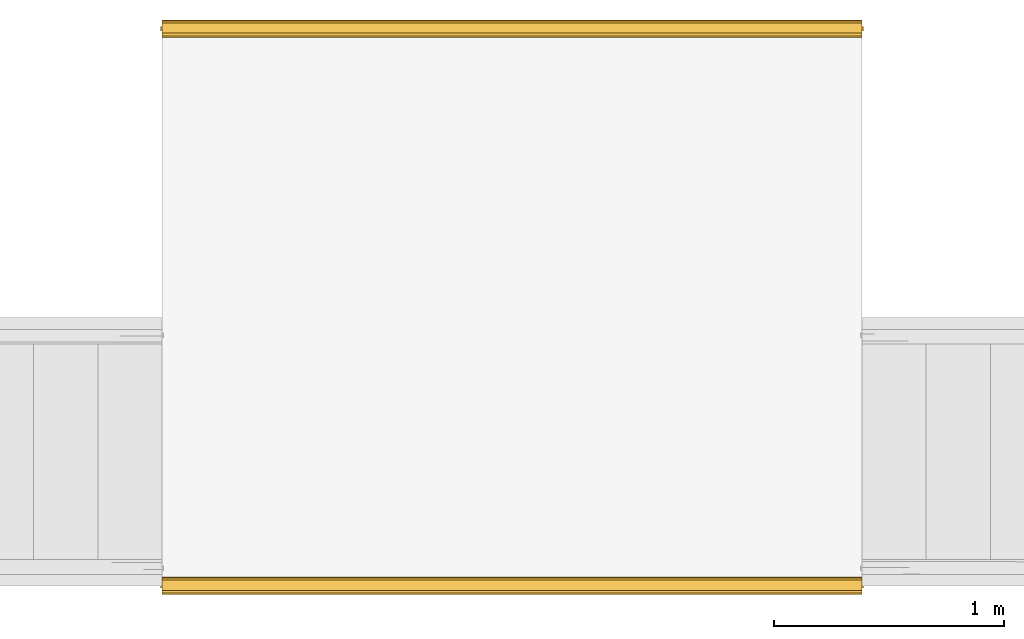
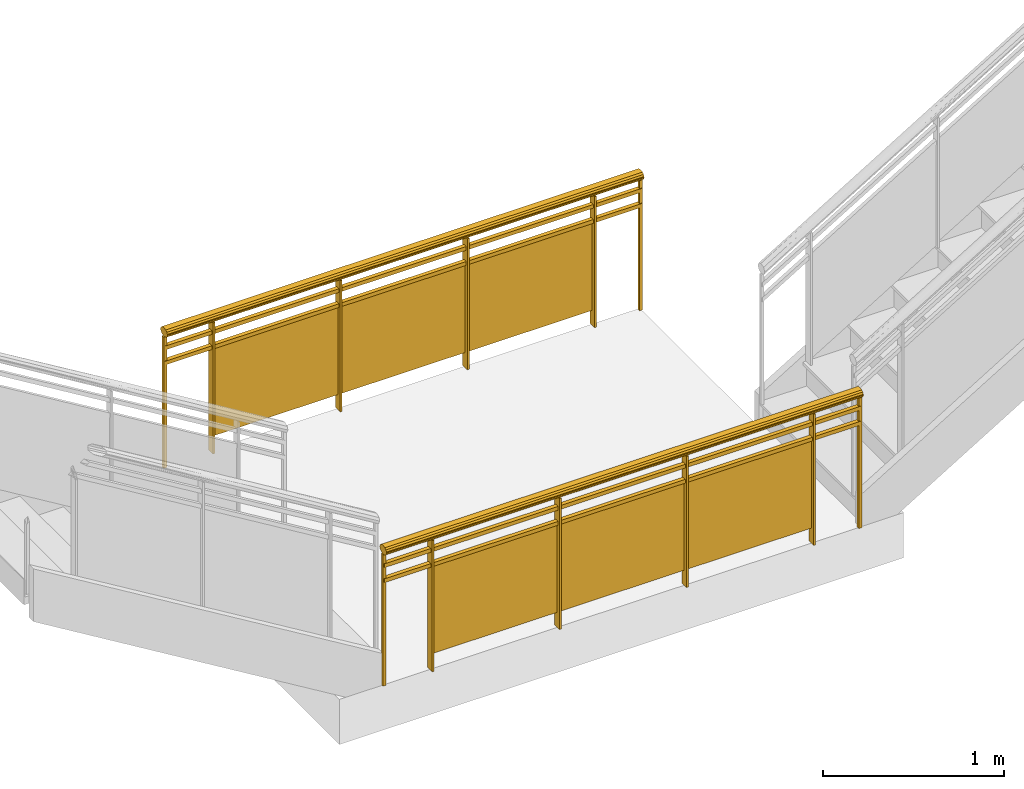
# One storey, part 2 of 4: 2 railings.
"""IFC2X3 building model written with IfcOpenShell, lengths in feet."""

from ifc_helpers import new_model, entity, si_unit, converted_unit, derived_unit, direction, frame, frame_2d, origin, origin_2d_with_axis, place, context, subcontext, project, spatial, polyline, rectangle, outline, extrude, material, material_list, element, save


model = new_model("IFC2X3")

# Units and contexts
model_context = context("Model", 3, precision=0.0001, world=origin(), true_north=direction((6.12303176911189e-17, 1.0)))
body_context = subcontext(model_context, "Body", "Model", "MODEL_VIEW")
ifc_project = project(units=[converted_unit("LENGTHUNIT", "FOOT", entity("IfcRatioMeasure", 0.3048), si_unit("LENGTHUNIT", "METRE"), dimensions=[1, 0, 0, 0, 0, 0, 0]), converted_unit("AREAUNIT", "SQUARE FOOT", entity("IfcRatioMeasure", 0.09290304), si_unit("AREAUNIT", "SQUARE_METRE"), dimensions=[2, 0, 0, 0, 0, 0, 0]), converted_unit("VOLUMEUNIT", "CUBIC FOOT", entity("IfcRatioMeasure", 0.028316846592), si_unit("VOLUMEUNIT", "CUBIC_METRE"), dimensions=[3, 0, 0, 0, 0, 0, 0]), converted_unit("PLANEANGLEUNIT", "DEGREE", entity("IfcRatioMeasure", 0.0174532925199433), si_unit("PLANEANGLEUNIT", "RADIAN"), dimensions=[0, 0, 0, 0, 0, 0, 0]), si_unit("MASSUNIT", "GRAM", prefix="KILO"), derived_unit("MASSDENSITYUNIT", [(si_unit("MASSUNIT", "GRAM", prefix="KILO"), 1), (si_unit("LENGTHUNIT", "METRE"), -3)]), si_unit("TIMEUNIT", "SECOND"), si_unit("FREQUENCYUNIT", "HERTZ"), si_unit("THERMODYNAMICTEMPERATUREUNIT", "DEGREE_CELSIUS"), derived_unit("THERMALTRANSMITTANCEUNIT", [(si_unit("MASSUNIT", "GRAM", prefix="KILO"), 1), (si_unit("THERMODYNAMICTEMPERATUREUNIT", "KELVIN"), -1), (si_unit("TIMEUNIT", "SECOND"), -3)]), derived_unit("VOLUMETRICFLOWRATEUNIT", [(si_unit("LENGTHUNIT", "METRE"), 3), (si_unit("TIMEUNIT", "SECOND"), -1)]), si_unit("ELECTRICCURRENTUNIT", "AMPERE"), si_unit("ELECTRICVOLTAGEUNIT", "VOLT"), si_unit("POWERUNIT", "WATT"), si_unit("FORCEUNIT", "NEWTON"), si_unit("ILLUMINANCEUNIT", "LUX"), si_unit("LUMINOUSFLUXUNIT", "LUMEN"), si_unit("LUMINOUSINTENSITYUNIT", "CANDELA"), derived_unit("USERDEFINED", [(si_unit("MASSUNIT", "GRAM", prefix="KILO"), -1), (si_unit("LENGTHUNIT", "METRE"), -2), (si_unit("TIMEUNIT", "SECOND"), 3), (si_unit("LUMINOUSFLUXUNIT", "LUMEN"), 1)]), derived_unit("LINEARVELOCITYUNIT", [(si_unit("LENGTHUNIT", "METRE"), 1), (si_unit("TIMEUNIT", "SECOND"), -1)]), si_unit("PRESSUREUNIT", "PASCAL"), derived_unit("USERDEFINED", [(si_unit("LENGTHUNIT", "METRE"), -2), (si_unit("MASSUNIT", "GRAM", prefix="KILO"), 1), (si_unit("TIMEUNIT", "SECOND"), -2)])], contexts=[model_context])

# Site, building, storey
site_placement = place(None, origin())
site = spatial("IfcSite", under=ifc_project, at=site_placement, Name="Default", CompositionType="ELEMENT")
building_placement = place(site_placement, origin())
building = spatial("IfcBuilding", under=site, at=building_placement, CompositionType="ELEMENT")
storey_placement = place(building_placement, frame((0.0, 0.0, 15.0)))
storey = spatial("IfcBuildingStorey", under=building, at=storey_placement, Name="L 2", CompositionType="ELEMENT", Elevation=14.9999999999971)

# Railings
ifc_material_1 = material(Name="Glass")
ifc_material_2 = material(Name="alum - color")
ifc_material_list_1 = material_list([ifc_material_1, ifc_material_2])
railing_1_placement = place(storey_placement, origin())
element("IfcRailing", 1, at=railing_1_placement, inside=storey, material=ifc_material_list_1, Name="Railing:Glass Panel - Bottom Fill", ObjectType="Railing:Glass Panel - Bottom Fill", PredefinedType="NOTDEFINED", context=body_context, shape_type="SweptSolid", body=[
    extrude(rectangle(XDim=0.0416666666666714, YDim=0.166666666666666, at=frame_2d((0.0, 8.88178419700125e-16), x_axis=(1.0, 0.0))), frame((-29.9918294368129, -15.3369745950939, 0.0)), (0.0, 0.0, 1.0), 2.90577041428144),
    extrude(rectangle(XDim=0.0208333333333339, YDim=2.66666666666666, at=frame_2d((-8.88178419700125e-16, -1.77635683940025e-15), x_axis=(1.0, 0.0))), frame((-31.3251627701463, -15.3259504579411, 0.333333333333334), z_axis=(0.0, 0.0, 1.0), x_axis=(0.0, -1.0, 0.0)), (0.0, 0.0, 1.0), 1.95833333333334),
    extrude(rectangle(XDim=0.0416666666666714, YDim=0.166666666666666, at=frame_2d((0.0, 8.88178419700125e-16), x_axis=(1.0, 0.0))), frame((-32.6584961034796, -15.3369745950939, 0.0)), (0.0, 0.0, 1.0), 2.90577041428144),
    extrude(rectangle(XDim=0.0208333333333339, YDim=2.66666666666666, at=frame_2d((-8.88178419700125e-16, 0.0), x_axis=(1.0, 0.0))), frame((-33.9918294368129, -15.3259504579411, 0.333333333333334), z_axis=(0.0, 0.0, 1.0), x_axis=(0.0, -1.0, 0.0)), (0.0, 0.0, 1.0), 1.95833333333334),
    extrude(rectangle(XDim=0.0416666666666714, YDim=0.166666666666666, at=frame_2d((0.0, 8.88178419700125e-16), x_axis=(1.0, 0.0))), frame((-35.3251627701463, -15.3369745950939, 0.0)), (0.0, 0.0, 1.0), 2.90577041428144),
    extrude(rectangle(XDim=0.0208333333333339, YDim=2.66666666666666, at=frame_2d((-8.88178419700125e-16, 0.0), x_axis=(1.0, 0.0))), frame((-36.6584961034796, -15.3259504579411, 0.333333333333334), z_axis=(0.0, 0.0, 1.0), x_axis=(0.0, -1.0, 0.0)), (0.0, 0.0, 1.0), 1.95833333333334),
    extrude(rectangle(XDim=0.0416666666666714, YDim=0.166666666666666, at=frame_2d((0.0, 8.88178419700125e-16), x_axis=(1.0, 0.0))), frame((-37.9918294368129, -15.3369745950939, 0.0)), (0.0, 0.0, 1.0), 2.90577041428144),
    extrude(rectangle(XDim=0.0625, YDim=0.0625, at=origin_2d_with_axis()), frame((-29.0022461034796, -15.3369745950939, 0.0)), (0.0, 0.0, 1.0), 2.90577041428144),
    extrude(rectangle(XDim=0.0625, YDim=0.0625, at=origin_2d_with_axis()), frame((-38.9814127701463, -15.3369745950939, 0.0)), (0.0, 0.0, 1.0), 2.90577041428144),
    extrude(rectangle(XDim=10.0, YDim=0.0833333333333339, at=frame_2d((0.0, -8.88178419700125e-16), x_axis=(1.0, 0.0))), frame((-33.9918294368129, -15.3369745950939, 2.625)), (0.0, 0.0, 1.0), 0.0833333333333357),
    extrude(rectangle(XDim=10.0, YDim=0.0833333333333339, at=frame_2d((0.0, -8.88178419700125e-16), x_axis=(1.0, 0.0))), frame((-33.9918294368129, -15.3369745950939, 2.29166666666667)), (0.0, 0.0, 1.0), 0.0833333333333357),
    extrude(outline(polyline([(-0.0340837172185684, -0.120263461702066), (0.00554964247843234, -0.120263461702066), (0.0442234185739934, -0.0994688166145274), (0.0752505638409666, -0.0614751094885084), (0.0932662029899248, -0.0128517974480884), (0.0951552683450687, 0.0379937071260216), (0.0805911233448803, 0.0822697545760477), (0.0520920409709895, 0.11232061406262), (0.0340837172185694, 0.120263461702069), (-0.00554964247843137, 0.120263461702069), (-0.0442234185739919, 0.0994688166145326), (-0.0752505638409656, 0.0614751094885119), (-0.0932662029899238, 0.0128517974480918), (-0.0951552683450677, -0.0379937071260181), (-0.0805911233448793, -0.0822697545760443), (-0.0520920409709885, -0.112320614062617), (-0.0340837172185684, -0.120263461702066)])), frame((-38.991829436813, -15.3369745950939, 3.0), z_axis=(1.0, 0.0, 0.0), x_axis=(0.0, 0.272669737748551, -0.962107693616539)), (0.0, 0.0, 1.0), 10.0),
])
ifc_material_list_2 = material_list([ifc_material_1, ifc_material_2])
railing_2_placement = place(storey_placement, origin())
element("IfcRailing", 2, at=railing_2_placement, inside=storey, material=ifc_material_list_2, Name="Railing:Glass Panel - Bottom Fill", ObjectType="Railing:Glass Panel - Bottom Fill", PredefinedType="NOTDEFINED", context=body_context, shape_type="SweptSolid", body=[
    extrude(rectangle(XDim=0.0416666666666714, YDim=0.166666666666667, at=frame_2d((0.0, 4.44089209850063e-16), x_axis=(1.0, 0.0))), frame((-29.9918294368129, -7.37673740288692, 0.0)), (0.0, 0.0, 1.0), 2.90577041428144),
    extrude(rectangle(XDim=0.020833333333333, YDim=2.66666666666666, at=frame_2d((-4.44089209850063e-16, -1.77635683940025e-15), x_axis=(1.0, 0.0))), frame((-31.3251627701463, -7.36571326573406, 0.333333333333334), z_axis=(0.0, 0.0, 1.0), x_axis=(0.0, -1.0, 0.0)), (0.0, 0.0, 1.0), 1.95833333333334),
    extrude(rectangle(XDim=0.0416666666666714, YDim=0.166666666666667, at=frame_2d((0.0, 4.44089209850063e-16), x_axis=(1.0, 0.0))), frame((-32.6584961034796, -7.37673740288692, 0.0)), (0.0, 0.0, 1.0), 2.90577041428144),
    extrude(rectangle(XDim=0.020833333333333, YDim=2.66666666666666, at=frame_2d((-4.44089209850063e-16, 0.0), x_axis=(1.0, 0.0))), frame((-33.9918294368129, -7.36571326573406, 0.333333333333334), z_axis=(0.0, 0.0, 1.0), x_axis=(0.0, -1.0, 0.0)), (0.0, 0.0, 1.0), 1.95833333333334),
    extrude(rectangle(XDim=0.0416666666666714, YDim=0.166666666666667, at=frame_2d((0.0, 4.44089209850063e-16), x_axis=(1.0, 0.0))), frame((-35.3251627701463, -7.37673740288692, 0.0)), (0.0, 0.0, 1.0), 2.90577041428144),
    extrude(rectangle(XDim=0.020833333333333, YDim=2.66666666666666, at=frame_2d((-4.44089209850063e-16, 0.0), x_axis=(1.0, 0.0))), frame((-36.6584961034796, -7.36571326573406, 0.333333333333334), z_axis=(0.0, 0.0, 1.0), x_axis=(0.0, -1.0, 0.0)), (0.0, 0.0, 1.0), 1.95833333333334),
    extrude(rectangle(XDim=0.0416666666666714, YDim=0.166666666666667, at=frame_2d((0.0, 4.44089209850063e-16), x_axis=(1.0, 0.0))), frame((-37.9918294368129, -7.37673740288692, 0.0)), (0.0, 0.0, 1.0), 2.90577041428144),
    extrude(rectangle(XDim=0.0625, YDim=0.0625, at=origin_2d_with_axis()), frame((-29.0022461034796, -7.37673740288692, 0.0)), (0.0, 0.0, 1.0), 2.90577041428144),
    extrude(rectangle(XDim=0.0625, YDim=0.0625, at=origin_2d_with_axis()), frame((-38.9814127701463, -7.37673740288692, 0.0)), (0.0, 0.0, 1.0), 2.90577041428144),
    extrude(rectangle(XDim=10.0, YDim=0.083333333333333, at=frame_2d((0.0, -4.44089209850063e-16), x_axis=(1.0, 0.0))), frame((-33.9918294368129, -7.37673740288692, 2.625)), (0.0, 0.0, 1.0), 0.0833333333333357),
    extrude(rectangle(XDim=10.0, YDim=0.083333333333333, at=frame_2d((0.0, -4.44089209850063e-16), x_axis=(1.0, 0.0))), frame((-33.9918294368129, -7.37673740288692, 2.29166666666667)), (0.0, 0.0, 1.0), 0.0833333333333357),
    extrude(outline(polyline([(-0.0340837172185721, -0.120263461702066), (0.00554964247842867, -0.120263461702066), (0.0442234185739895, -0.0994688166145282), (0.0752505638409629, -0.0614751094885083), (0.0932662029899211, -0.0128517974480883), (0.095155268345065, 0.0379937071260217), (0.0805911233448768, 0.0822697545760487), (0.0520920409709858, 0.11232061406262), (0.0340837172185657, 0.120263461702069), (-0.00554964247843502, 0.120263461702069), (-0.0442234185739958, 0.0994688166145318), (-0.0752505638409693, 0.061475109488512), (-0.0932662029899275, 0.0128517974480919), (-0.0951552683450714, -0.037993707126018), (-0.0805911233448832, -0.0822697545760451), (-0.0520920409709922, -0.112320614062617), (-0.0340837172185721, -0.120263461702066)])), frame((-38.9918294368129, -7.37673740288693, 3.0), z_axis=(1.0, 0.0, 0.0), x_axis=(0.0, 0.272669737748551, -0.962107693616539)), (0.0, 0.0, 1.0), 10.0),
])

save(model, "model.ifc")
